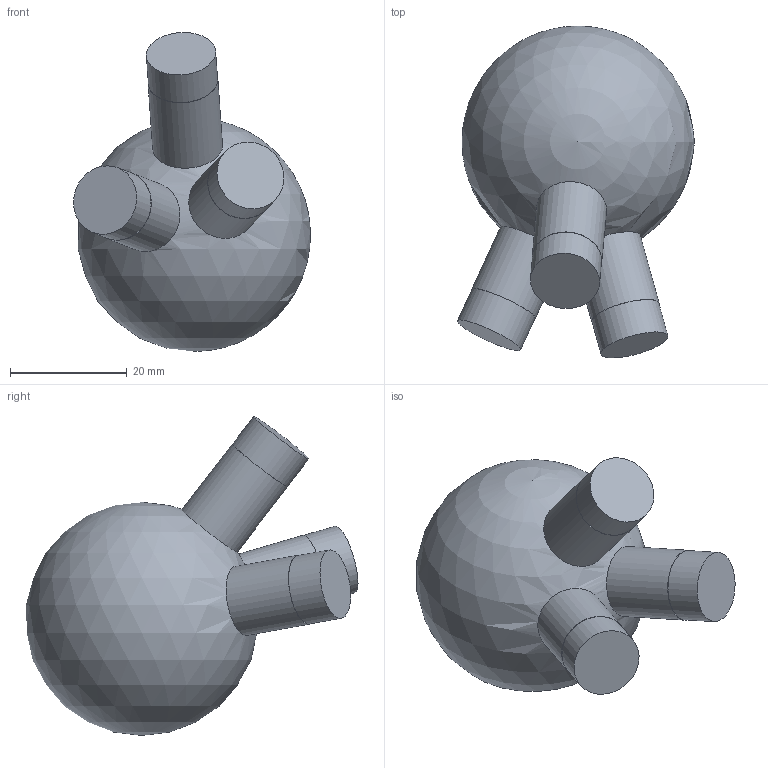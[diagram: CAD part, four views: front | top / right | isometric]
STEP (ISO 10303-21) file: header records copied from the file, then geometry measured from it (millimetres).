
FILE_DESCRIPTION(('Open CASCADE Model'),'2;1');
FILE_NAME('Open CASCADE Shape Model','2026-10-21T12:47:57',('Author'),( 'Open CASCADE'),'Open CASCADE STEP processor 7.9','Open CASCADE 7.9' ,'Unknown');
FILE_SCHEMA(('AUTOMOTIVE_DESIGN { 1 0 10303 214 1 1 1 1 }'));
Length unit declared in the file: millimetre
Products named in the file (1): Open CASCADE STEP translator 7.9 149
Bounding box: 40.63 x 56.93 x 54.7 mm (x, y, z)
Volume: 39723 mm3; surface area: 7147.5 mm2
Topology: 1 solids, 1 shells, 13 faces, 21 edges, 14 vertices
Faces by surface type: cylinder 6, plane 6, sphere 1
Full cylindrical faces by diameter (mm): 11.9 x3, 12 x3
Entity records: 718 total; most frequent: CARTESIAN_POINT 273, DIRECTION 91, ORIENTED_EDGE 36, PCURVE 36, DEFINITIONAL_REPRESENTATION 36, LINE 30, VECTOR 30, AXIS2_PLACEMENT_3D 26
